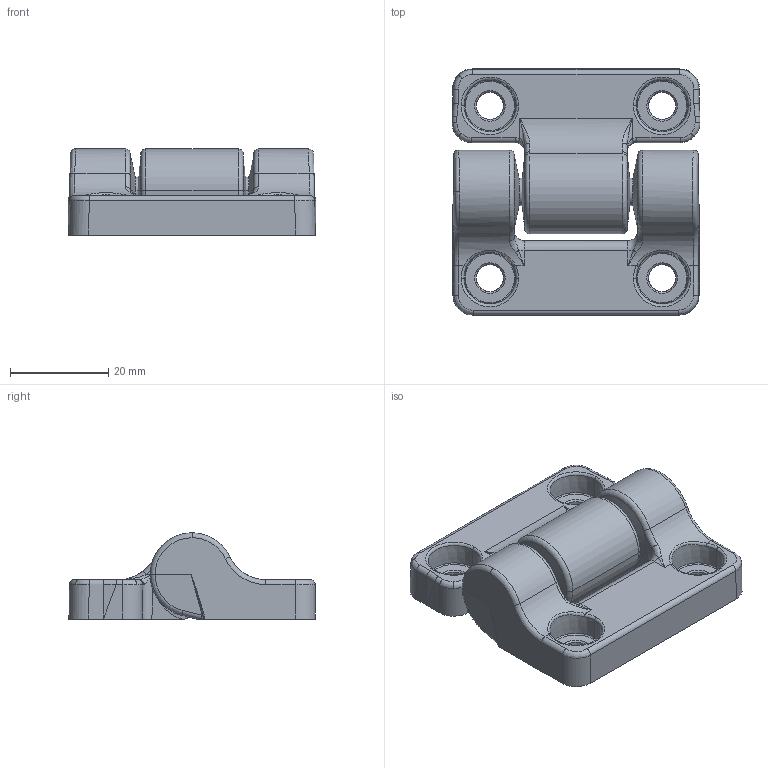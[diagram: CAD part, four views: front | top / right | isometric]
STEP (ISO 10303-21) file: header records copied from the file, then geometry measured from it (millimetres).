
FILE_DESCRIPTION (( 'STEP AP214' ), '1' );
FILE_NAME ('MH-10 rev 6.STEP', '2024-09-10T13:51:01', ( '' ), ( '' ), 'SwSTEP 2.0', 'SolidWorks 2021', '' );
FILE_SCHEMA (( 'AUTOMOTIVE_DESIGN' ));
Length unit declared in the file: millimetre
Products named in the file (3): Inner Bracket; MH-10 rev 6; Outer Bracket
Assembly tree (2 placements, depth 2):
  MH-10 rev 6
    Outer Bracket
    Inner Bracket
Bounding box: 50.36 x 50 x 17.5 mm (x, y, z)
Volume: 19385.3 mm3; surface area: 10796.9 mm2
Topology: 2 solids, 2 shells, 1016 faces, 2617 edges, 1672 vertices
Faces by surface type: plane 463, bspline 301, cylinder 156, cone 44, torus 38, sphere 14
Entity records: 43891 total; most frequent: CARTESIAN_POINT 21379, ORIENTED_EDGE 5222, DIRECTION 3701, EDGE_CURVE 2611, VERTEX_POINT 1672, LINE 1513, VECTOR 1513, EDGE_LOOP 1101
